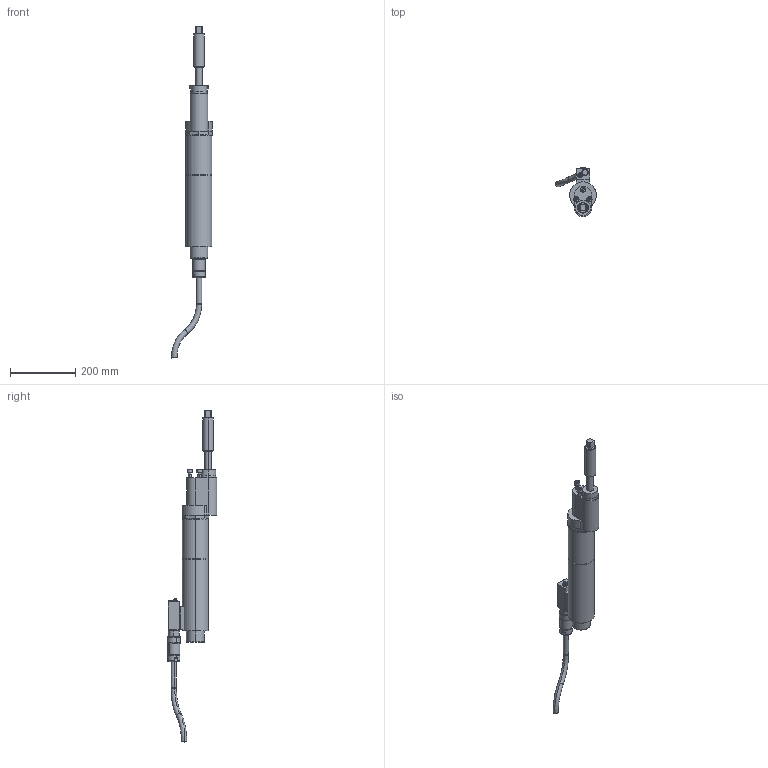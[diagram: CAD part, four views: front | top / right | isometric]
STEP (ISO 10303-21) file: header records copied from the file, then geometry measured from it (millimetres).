
FILE_DESCRIPTION(('CATIA V5 STEP'),'2;1');
FILE_NAME('O:\3D-Schrauber\stp\7920199_ECR326_AO350_AllCATPart.stp','2010-05-05T10:56:32+00:00',('none'),('none'),'CATIA Version 5 Release 19 SP 3 (IN-10)','CATIA V5 STEP AP214','none');
FILE_SCHEMA(('AUTOMOTIVE_DESIGN { 1 0 10303 214 1 1 1 1 }'));
Length unit declared in the file: millimetre
Products named in the file (1): 7920199_ECR326_AO350_AllCATPart
Bounding box: 124.82 x 152.33 x 1020.16 mm (x, y, z)
Volume: 2964987 mm3; surface area: 248378.3 mm2
Topology: 11 solids, 11 shells, 294 faces, 658 edges, 411 vertices
Faces by surface type: plane 124, cylinder 102, cone 44, torus 24
Entity records: 7791 total; most frequent: CARTESIAN_POINT 1597, ORIENTED_EDGE 1304, DIRECTION 1054, EDGE_CURVE 652, AXIS2_PLACEMENT_3D 530, VERTEX_POINT 411, EDGE_LOOP 325, CIRCLE 308
